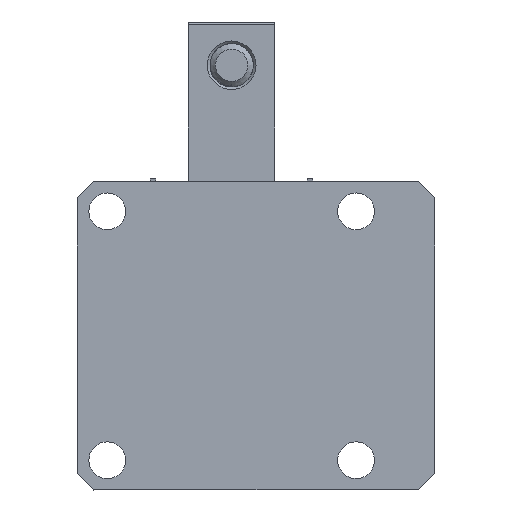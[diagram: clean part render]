
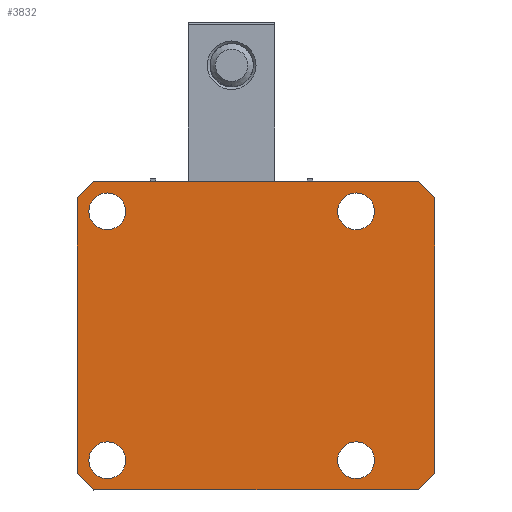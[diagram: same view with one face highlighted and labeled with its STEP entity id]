
A CAD part, front view. The second image highlights one B-rep face of the part: STEP entity #3832.
In plain terms, the highlighted planar face has unit normal (0, -1, 0).
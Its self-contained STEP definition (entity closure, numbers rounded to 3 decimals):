
#137=PLANE('',#4390);
#238=FACE_BOUND('',#694,.T.);
#239=FACE_BOUND('',#695,.T.);
#240=FACE_BOUND('',#696,.T.);
#241=FACE_BOUND('',#697,.T.);
#462=FACE_OUTER_BOUND('',#693,.T.);
#693=EDGE_LOOP('',(#2827,#2828,#2829,#2830,#2831,#2832,#2833,#2834));
#694=EDGE_LOOP('',(#2835));
#695=EDGE_LOOP('',(#2836));
#696=EDGE_LOOP('',(#2837));
#697=EDGE_LOOP('',(#2838));
#956=LINE('',#6237,#1256);
#991=LINE('',#6310,#1291);
#992=LINE('',#6313,#1292);
#993=LINE('',#6315,#1293);
#994=LINE('',#6317,#1294);
#995=LINE('',#6319,#1295);
#996=LINE('',#6321,#1296);
#997=LINE('',#6322,#1297);
#1256=VECTOR('',#4914,1000.);
#1291=VECTOR('',#4973,1000.);
#1292=VECTOR('',#4976,1000.);
#1293=VECTOR('',#4977,1000.);
#1294=VECTOR('',#4978,1000.);
#1295=VECTOR('',#4979,1000.);
#1296=VECTOR('',#4980,1000.);
#1297=VECTOR('',#4981,1000.);
#1535=CIRCLE('',#4331,3.4);
#1538=CIRCLE('',#4335,3.4);
#1539=CIRCLE('',#4337,3.4);
#1542=CIRCLE('',#4341,3.4);
#1727=VERTEX_POINT('',#5972);
#1730=VERTEX_POINT('',#5980);
#1731=VERTEX_POINT('',#5984);
#1734=VERTEX_POINT('',#5992);
#1772=VERTEX_POINT('',#6234);
#1773=VERTEX_POINT('',#6236);
#1799=VERTEX_POINT('',#6308);
#1800=VERTEX_POINT('',#6312);
#1801=VERTEX_POINT('',#6314);
#1802=VERTEX_POINT('',#6316);
#1803=VERTEX_POINT('',#6318);
#1804=VERTEX_POINT('',#6320);
#2100=EDGE_CURVE('',#1727,#1727,#1535,.T.);
#2104=EDGE_CURVE('',#1730,#1730,#1538,.T.);
#2106=EDGE_CURVE('',#1731,#1731,#1539,.T.);
#2110=EDGE_CURVE('',#1734,#1734,#1542,.T.);
#2163=EDGE_CURVE('',#1772,#1773,#956,.T.);
#2201=EDGE_CURVE('',#1773,#1799,#991,.T.);
#2202=EDGE_CURVE('',#1800,#1799,#992,.T.);
#2203=EDGE_CURVE('',#1772,#1801,#993,.T.);
#2204=EDGE_CURVE('',#1801,#1802,#994,.T.);
#2205=EDGE_CURVE('',#1802,#1803,#995,.T.);
#2206=EDGE_CURVE('',#1803,#1804,#996,.T.);
#2207=EDGE_CURVE('',#1804,#1800,#997,.T.);
#2827=ORIENTED_EDGE('',*,*,#2202,.T.);
#2828=ORIENTED_EDGE('',*,*,#2201,.F.);
#2829=ORIENTED_EDGE('',*,*,#2163,.F.);
#2830=ORIENTED_EDGE('',*,*,#2203,.T.);
#2831=ORIENTED_EDGE('',*,*,#2204,.T.);
#2832=ORIENTED_EDGE('',*,*,#2205,.T.);
#2833=ORIENTED_EDGE('',*,*,#2206,.T.);
#2834=ORIENTED_EDGE('',*,*,#2207,.T.);
#2835=ORIENTED_EDGE('',*,*,#2100,.T.);
#2836=ORIENTED_EDGE('',*,*,#2104,.T.);
#2837=ORIENTED_EDGE('',*,*,#2106,.T.);
#2838=ORIENTED_EDGE('',*,*,#2110,.T.);
#3832=ADVANCED_FACE('',(#462,#238,#239,#240,#241),#137,.T.);
#4331=AXIS2_PLACEMENT_3D('',#5973,#4795,#4796);
#4335=AXIS2_PLACEMENT_3D('',#5981,#4804,#4805);
#4337=AXIS2_PLACEMENT_3D('',#5985,#4809,#4810);
#4341=AXIS2_PLACEMENT_3D('',#5993,#4818,#4819);
#4390=AXIS2_PLACEMENT_3D('',#6311,#4974,#4975);
#4795=DIRECTION('center_axis',(0.,1.,0.));
#4796=DIRECTION('ref_axis',(0.,0.,1.));
#4804=DIRECTION('center_axis',(0.,1.,0.));
#4805=DIRECTION('ref_axis',(0.,0.,1.));
#4809=DIRECTION('center_axis',(0.,1.,0.));
#4810=DIRECTION('ref_axis',(0.,0.,1.));
#4818=DIRECTION('center_axis',(0.,1.,0.));
#4819=DIRECTION('ref_axis',(0.,0.,1.));
#4914=DIRECTION('',(1.,0.,0.));
#4973=DIRECTION('',(0.707,0.,-0.707));
#4974=DIRECTION('center_axis',(0.,-1.,0.));
#4975=DIRECTION('ref_axis',(0.,0.,-1.));
#4976=DIRECTION('',(0.,0.,1.));
#4977=DIRECTION('',(-0.707,0.,-0.707));
#4978=DIRECTION('',(0.,0.,-1.));
#4979=DIRECTION('',(0.707,0.,-0.707));
#4980=DIRECTION('',(1.,0.,0.));
#4981=DIRECTION('',(0.707,0.,0.707));
#5972=CARTESIAN_POINT('',(-458.049,141.613,19.6));
#5973=CARTESIAN_POINT('Origin',(-458.049,141.613,23.));
#5980=CARTESIAN_POINT('',(-412.049,141.613,19.6));
#5981=CARTESIAN_POINT('Origin',(-412.049,141.613,23.));
#5984=CARTESIAN_POINT('',(-412.049,141.613,-26.4));
#5985=CARTESIAN_POINT('Origin',(-412.049,141.613,-23.));
#5992=CARTESIAN_POINT('',(-458.049,141.613,-26.4));
#5993=CARTESIAN_POINT('Origin',(-458.049,141.613,-23.));
#6234=CARTESIAN_POINT('',(-460.549,141.613,28.5));
#6236=CARTESIAN_POINT('',(-400.549,141.613,28.5));
#6237=CARTESIAN_POINT('',(-460.549,141.613,28.5));
#6308=CARTESIAN_POINT('',(-397.549,141.613,25.5));
#6310=CARTESIAN_POINT('',(-400.549,141.613,28.5));
#6311=CARTESIAN_POINT('Origin',(-463.549,141.613,-28.5));
#6312=CARTESIAN_POINT('',(-397.549,141.613,-25.5));
#6313=CARTESIAN_POINT('',(-397.549,141.613,-28.5));
#6314=CARTESIAN_POINT('',(-463.549,141.613,25.5));
#6315=CARTESIAN_POINT('',(-460.549,141.613,28.5));
#6316=CARTESIAN_POINT('',(-463.549,141.613,-25.5));
#6317=CARTESIAN_POINT('',(-463.549,141.613,-28.5));
#6318=CARTESIAN_POINT('',(-460.549,141.613,-28.5));
#6319=CARTESIAN_POINT('',(-463.549,141.613,-25.5));
#6320=CARTESIAN_POINT('',(-400.549,141.613,-28.5));
#6321=CARTESIAN_POINT('',(-463.549,141.613,-28.5));
#6322=CARTESIAN_POINT('',(-400.549,141.613,-28.5));
